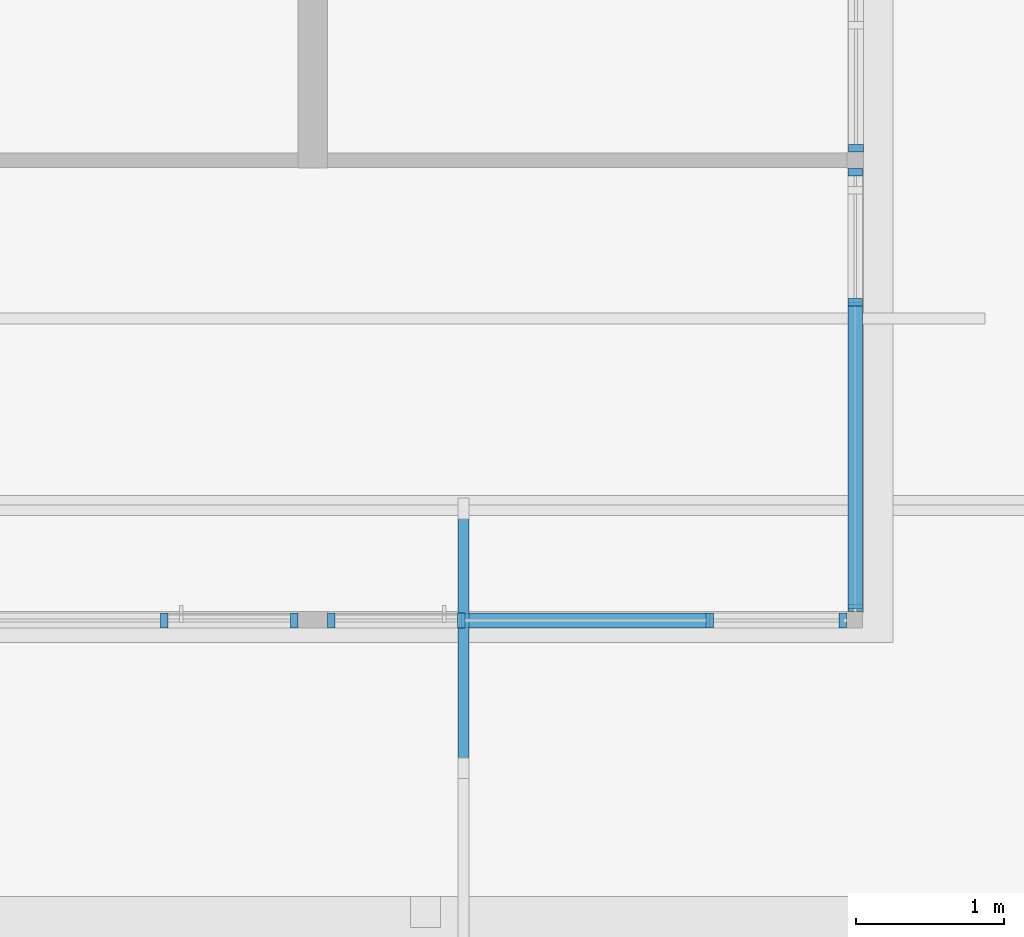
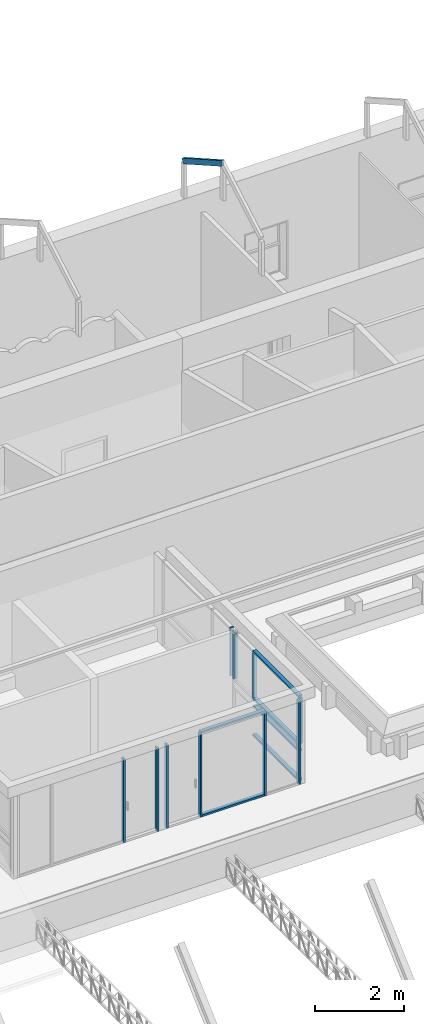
# One storey, part 5 of 153: 17 members, 1 beam, 5 elements without a shape of their own.
"""IFC4 building model written with IfcOpenShell, lengths in metres."""

from ifc_helpers import new_model, entity, si_unit, converted_unit, derived_unit, direction, frame, origin, place, context, subcontext, project, spatial, indexed_curve, outline, extrude, source, transform, mapped, material, type_object, type_shapes, element, aggregate, save


model = new_model("IFC4")

# Units and contexts
model_context = context("Model", 3, precision=1e-05, world=origin(), true_north=direction((6.123031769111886e-17, 1.0)))
body_context = subcontext(model_context, "Body", "Model", "MODEL_VIEW")
ifc_project = project(units=[si_unit("LENGTHUNIT", "METRE"), si_unit("AREAUNIT", "SQUARE_METRE"), si_unit("VOLUMEUNIT", "CUBIC_METRE"), converted_unit("PLANEANGLEUNIT", "DEGREE", entity("IfcRatioMeasure", 0.017453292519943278), si_unit("PLANEANGLEUNIT", "RADIAN"), dimensions=[0, 0, 0, 0, 0, 0, 0]), si_unit("MASSUNIT", "GRAM", prefix="KILO"), derived_unit("MASSDENSITYUNIT", [(si_unit("MASSUNIT", "GRAM", prefix="KILO"), 1), (si_unit("LENGTHUNIT", "METRE"), -3)]), derived_unit("MOMENTOFINERTIAUNIT", [(si_unit("LENGTHUNIT", "METRE"), 4)]), si_unit("TIMEUNIT", "SECOND"), si_unit("FREQUENCYUNIT", "HERTZ"), si_unit("THERMODYNAMICTEMPERATUREUNIT", "DEGREE_CELSIUS"), derived_unit("THERMALTRANSMITTANCEUNIT", [(si_unit("MASSUNIT", "GRAM", prefix="KILO"), 1), (si_unit("THERMODYNAMICTEMPERATUREUNIT", "KELVIN"), -1), (si_unit("TIMEUNIT", "SECOND"), -3)]), derived_unit("VOLUMETRICFLOWRATEUNIT", [(si_unit("LENGTHUNIT", "METRE"), 3), (si_unit("TIMEUNIT", "SECOND"), -1)]), derived_unit("MASSFLOWRATEUNIT", [(si_unit("MASSUNIT", "GRAM", prefix="KILO"), 1), (si_unit("TIMEUNIT", "SECOND"), -1)]), derived_unit("ROTATIONALFREQUENCYUNIT", [(si_unit("TIMEUNIT", "SECOND"), -1)]), si_unit("ELECTRICCURRENTUNIT", "AMPERE"), si_unit("ELECTRICVOLTAGEUNIT", "VOLT"), si_unit("POWERUNIT", "WATT"), si_unit("FORCEUNIT", "NEWTON", prefix="KILO"), si_unit("ILLUMINANCEUNIT", "LUX"), si_unit("LUMINOUSFLUXUNIT", "LUMEN"), si_unit("LUMINOUSINTENSITYUNIT", "CANDELA"), derived_unit("USERDEFINED", [(si_unit("MASSUNIT", "GRAM", prefix="KILO"), -1), (si_unit("LENGTHUNIT", "METRE"), -2), (si_unit("TIMEUNIT", "SECOND"), 3), (si_unit("LUMINOUSFLUXUNIT", "LUMEN"), 1)]), derived_unit("SOUNDPOWERUNIT", [(si_unit("MASSUNIT", "GRAM", prefix="KILO"), 1), (si_unit("LENGTHUNIT", "METRE"), 2), (si_unit("TIMEUNIT", "SECOND"), -3)]), derived_unit("SOUNDPRESSUREUNIT", [(si_unit("MASSUNIT", "GRAM", prefix="KILO"), 1), (si_unit("LENGTHUNIT", "METRE"), -1), (si_unit("TIMEUNIT", "SECOND"), -2)]), derived_unit("LINEARVELOCITYUNIT", [(si_unit("LENGTHUNIT", "METRE"), 1), (si_unit("TIMEUNIT", "SECOND"), -1)]), si_unit("PRESSUREUNIT", "PASCAL"), derived_unit("USERDEFINED", [(si_unit("LENGTHUNIT", "METRE"), -2), (si_unit("MASSUNIT", "GRAM", prefix="KILO"), 1), (si_unit("TIMEUNIT", "SECOND"), -2)]), derived_unit("LINEARFORCEUNIT", [(si_unit("MASSUNIT", "GRAM", prefix="KILO"), 1), (si_unit("LENGTHUNIT", "METRE"), 1), (si_unit("TIMEUNIT", "SECOND"), -2), (si_unit("LENGTHUNIT", "METRE"), -1)]), derived_unit("PLANARFORCEUNIT", [(si_unit("MASSUNIT", "GRAM", prefix="KILO"), 1), (si_unit("LENGTHUNIT", "METRE"), 1), (si_unit("TIMEUNIT", "SECOND"), -2), (si_unit("LENGTHUNIT", "METRE"), -2)])], contexts=[model_context])

# Site, building, storey
site_placement = place(None, origin())
site = spatial("IfcSite", under=ifc_project, at=site_placement, Name="Superficie", CompositionType="ELEMENT")
building_placement = place(site_placement, origin())
building = spatial("IfcBuilding", under=site, at=building_placement, CompositionType="ELEMENT")
storey_placement = place(building_placement, frame((0.0, 0.0, 3.5999999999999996)))
storey = spatial("IfcBuildingStorey", under=building, at=storey_placement, Name="Nivel 1", CompositionType="ELEMENT", Elevation=3.5999999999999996)

# Curtain wall, members
curtain_wall_type = type_object("IfcCurtainWallType", Name="Muro cortina:Muro cortina - simple", PredefinedType="NOTDEFINED")
curtain_wall_1_placement = place(storey_placement, frame((0.0, 0.0, -3.5999999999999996)))
curtain_wall_1 = element("IfcCurtainWall", 1, at=curtain_wall_1_placement, inside=storey, type_object=curtain_wall_type, Name="Muro cortina:Muro cortina - simple", ObjectType="Muro cortina:Muro cortina - simple", PredefinedType="NOTDEFINED")
ifc_material_1 = material(Name="<Unnamed>")
member_type_1 = type_object("IfcMemberType", Name="Montante rectangular:Montante rectangular - 5 x 10 cm", PredefinedType="MULLION", material=ifc_material_1)
shared_shape_1 = source(origin(), body_context, "Body", "SweptSolid", [
    extrude(outline(indexed_curve([(-0.05, -0.025), (0.05, -0.025), (0.05, 0.025), (-0.05, 0.025), (-0.05, -0.025)], self_intersect=False)), frame((0.0, 0.0, -1.2499999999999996), z_axis=(0.0, 0.0, 1.0), x_axis=(0.0, -1.0, 0.0)), (0.0, 0.0, 1.0), 1.2499999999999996),
])
type_shapes(member_type_1, [shared_shape_1])
member_1_placement = place(curtain_wall_1_placement, frame((-5.5182009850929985, 1.1813932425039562, 4.63), z_axis=(0.0, 0.0, -1.0), x_axis=(0.0, 1.0, 0.0)))
member_1 = element("IfcMember", 2, at=member_1_placement, type_object=member_type_1, material=ifc_material_1, Name="Montante rectangular:Montante rectangular - 5 x 10 cm", ObjectType="Montante rectangular:Montante rectangular - 5 x 10 cm", PredefinedType="MULLION", context=body_context, shape_type="MappedRepresentation", body=[
    mapped(shared_shape_1, transform((0.0, 0.0, 0.0), scale=1.0)),
])
member_type_2 = type_object("IfcMemberType", Name="Montante rectangular:Montante rectangular - 5 x 10 cm", PredefinedType="MULLION", material=ifc_material_1)
shared_shape_2 = source(origin(), body_context, "Body", "SweptSolid", [
    extrude(outline(indexed_curve([(-0.05, -0.025), (0.05, -0.025), (0.05, 0.025), (-0.05, 0.025), (-0.05, -0.025)], self_intersect=False)), frame((-0.025, 0.0, -1.2499999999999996), z_axis=(0.0, 0.0, 1.0), x_axis=(0.0, -1.0, 0.0)), (0.0, 0.0, 1.0), 1.2499999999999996),
])
type_shapes(member_type_2, [shared_shape_2])
member_2_placement = place(curtain_wall_1_placement, frame((-5.5182009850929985, -0.9047671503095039, 5.879999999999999), z_axis=(0.0, 0.0, 1.0), x_axis=(0.0, -1.0, 0.0)))
member_2 = element("IfcMember", 3, at=member_2_placement, type_object=member_type_2, material=ifc_material_1, Name="Montante rectangular:Montante rectangular - 5 x 10 cm", ObjectType="Montante rectangular:Montante rectangular - 5 x 10 cm", PredefinedType="MULLION", context=body_context, shape_type="MappedRepresentation", body=[
    mapped(shared_shape_2, transform((0.0, 0.0, 0.0), scale=1.0)),
])

curtain_wall_2_placement = place(storey_placement, frame((0.0, 0.0, -3.5999999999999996)))
curtain_wall_2 = element("IfcCurtainWall", 4, at=curtain_wall_2_placement, inside=storey, type_object=curtain_wall_type, Name="Muro cortina:Muro cortina - simple", ObjectType="Muro cortina:Muro cortina - simple", PredefinedType="NOTDEFINED")
member_type_3 = type_object("IfcMemberType", Name="Montante rectangular:Montante rectangular - 5 x 10 cm", PredefinedType="MULLION", material=ifc_material_1)
shared_shape_3 = source(origin(), body_context, "Body", "SweptSolid", [
    extrude(outline(indexed_curve([(-0.05, -0.025), (0.05, -0.025), (0.05, 0.025), (-0.05, 0.025), (-0.05, -0.025)], self_intersect=False)), frame((0.0, 0.0, -2.3000000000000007), z_axis=(0.0, 0.0, 1.0), x_axis=(0.0, -1.0, 0.0)), (0.0, 0.0, 1.0), 2.3000000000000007),
])
type_shapes(member_type_3, [shared_shape_3])
member_3_placement = place(curtain_wall_2_placement, frame((-6.498200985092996, -0.9636067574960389, 3.5999999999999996), z_axis=(0.0, 0.0, -1.0), x_axis=(-1.0, 0.0, 0.0)))
member_3 = element("IfcMember", 5, at=member_3_placement, type_object=member_type_3, material=ifc_material_1, Name="Montante rectangular:Montante rectangular - 5 x 10 cm", ObjectType="Montante rectangular:Montante rectangular - 5 x 10 cm", PredefinedType="MULLION", context=body_context, shape_type="MappedRepresentation", body=[
    mapped(shared_shape_3, transform((0.0, 0.0, 0.0), scale=1.0)),
])
member_4_placement = place(curtain_wall_2_placement, frame((-8.173200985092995, -0.9636067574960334, 3.5999999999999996), z_axis=(0.0, 0.0, -1.0), x_axis=(-1.0, 0.0, 0.0)))
member_4 = element("IfcMember", 6, at=member_4_placement, type_object=member_type_3, material=ifc_material_1, Name="Montante rectangular:Montante rectangular - 5 x 10 cm", ObjectType="Montante rectangular:Montante rectangular - 5 x 10 cm", PredefinedType="MULLION", context=body_context, shape_type="MappedRepresentation", body=[
    mapped(shared_shape_3, transform((0.0, 0.0, 0.0), scale=1.0)),
])
member_type_4 = type_object("IfcMemberType", Name="Montante rectangular:Montante rectangular - 5 x 10 cm", PredefinedType="MULLION", material=ifc_material_1)
shared_shape_4 = source(origin(), body_context, "Body", "SweptSolid", [
    extrude(outline(indexed_curve([(-0.05, -0.025), (0.05, -0.025), (0.05, 0.025), (-0.05, 0.025), (-0.05, -0.025)], self_intersect=False)), frame((-0.025, 0.0, -1.6750000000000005), z_axis=(0.0, 0.0, 1.0), x_axis=(0.0, -1.0, 0.0)), (0.0, 0.0, 1.0), 1.6750000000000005),
])
type_shapes(member_type_4, [shared_shape_4])
member_5_placement = place(curtain_wall_2_placement, frame((-8.173200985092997, -0.9636067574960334, 5.949999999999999), z_axis=(-1.0, 0.0, 0.0), x_axis=(0.0, 0.0, 1.0)))
member_5 = element("IfcMember", 7, at=member_5_placement, type_object=member_type_4, material=ifc_material_1, Name="Montante rectangular:Montante rectangular - 5 x 10 cm", ObjectType="Montante rectangular:Montante rectangular - 5 x 10 cm", PredefinedType="MULLION", context=body_context, shape_type="MappedRepresentation", body=[
    mapped(shared_shape_4, transform((0.0, 0.0, 0.0), scale=1.0)),
])
member_type_5 = type_object("IfcMemberType", Name="Montante rectangular:Montante rectangular - 5 x 10 cm", PredefinedType="MULLION", material=ifc_material_1)
shared_shape_5 = source(origin(), body_context, "Body", "SweptSolid", [
    extrude(outline(indexed_curve([(-0.05, -0.025), (0.05, -0.025), (0.05, 0.025), (-0.05, 0.025), (-0.05, -0.025)], self_intersect=False)), frame((-0.025, 0.0, -1.6249999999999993), z_axis=(0.0, 0.0, 1.0), x_axis=(0.0, -1.0, 0.0)), (0.0, 0.0, 1.0), 1.6249999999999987),
])
type_shapes(member_type_5, [shared_shape_5])
member_6_placement = place(curtain_wall_2_placement, frame((-6.523200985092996, -0.9636067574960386, 3.5999999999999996), z_axis=(1.0, 0.0, 0.0), x_axis=(0.0, 0.0, -1.0)))
member_6 = element("IfcMember", 8, at=member_6_placement, type_object=member_type_5, material=ifc_material_1, Name="Montante rectangular:Montante rectangular - 5 x 10 cm", ObjectType="Montante rectangular:Montante rectangular - 5 x 10 cm", PredefinedType="MULLION", context=body_context, shape_type="MappedRepresentation", body=[
    mapped(shared_shape_5, transform((0.0, 0.0, 0.0), scale=1.0)),
])
member_type_6 = type_object("IfcMemberType", Name="Montante rectangular:Montante rectangular - 5 x 10 cm", PredefinedType="MULLION", material=ifc_material_1)
shared_shape_6 = source(origin(), body_context, "Body", "SweptSolid", [
    extrude(outline(indexed_curve([(-0.05, -0.025), (0.05, -0.025), (0.05, 0.025), (-0.05, 0.025), (-0.05, -0.025)], self_intersect=False)), frame((-0.025, 0.0, -2.3000000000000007), z_axis=(0.0, 0.0, 1.0), x_axis=(0.0, -1.0, 0.0)), (0.0, 0.0, 1.0), 2.3000000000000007),
])
type_shapes(member_type_6, [shared_shape_6])
member_7_placement = place(curtain_wall_2_placement, frame((-9.073200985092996, -0.9636067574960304, 3.5999999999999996), z_axis=(0.0, 0.0, -1.0), x_axis=(-1.0, 0.0, 0.0)))
member_7 = element("IfcMember", 9, at=member_7_placement, type_object=member_type_6, material=ifc_material_1, Name="Montante rectangular:Montante rectangular - 5 x 10 cm", ObjectType="Montante rectangular:Montante rectangular - 5 x 10 cm", PredefinedType="MULLION", context=body_context, shape_type="MappedRepresentation", body=[
    mapped(shared_shape_6, transform((0.0, 0.0, 0.0), scale=1.0)),
])
member_type_7 = type_object("IfcMemberType", Name="Montante rectangular:Montante rectangular - 5 x 10 cm", PredefinedType="MULLION", material=ifc_material_1)
shared_shape_7 = source(origin(), body_context, "Body", "SweptSolid", [
    extrude(outline(indexed_curve([(-0.05, -0.025), (0.05, -0.025), (0.05, 0.025), (-0.05, 0.025), (-0.05, -0.025)], self_intersect=False)), frame((-0.025, 0.0, -2.3000000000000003), z_axis=(0.0, 0.0, 1.0), x_axis=(0.0, -1.0, 0.0)), (0.0, 0.0, 1.0), 2.3000000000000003),
])
type_shapes(member_type_7, [shared_shape_7])
member_8_placement = place(curtain_wall_2_placement, frame((-5.578200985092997, -0.9636067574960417, 5.9)))
member_8 = element("IfcMember", 10, at=member_8_placement, type_object=member_type_7, material=ifc_material_1, Name="Montante rectangular:Montante rectangular - 5 x 10 cm", ObjectType="Montante rectangular:Montante rectangular - 5 x 10 cm", PredefinedType="MULLION", context=body_context, shape_type="MappedRepresentation", body=[
    mapped(shared_shape_7, transform((0.0, 0.0, 0.0), scale=1.0)),
])
aggregate(curtain_wall_2, [member_3, member_5, member_6, member_7, member_8, member_4])

curtain_wall_3_placement = place(storey_placement, frame((0.0, 0.0, -3.5999999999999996)))
curtain_wall_3 = element("IfcCurtainWall", 11, at=curtain_wall_3_placement, inside=storey, type_object=curtain_wall_type, Name="Muro cortina:Muro cortina - simple", ObjectType="Muro cortina:Muro cortina - simple", PredefinedType="NOTDEFINED")
member_type_8 = type_object("IfcMemberType", Name="Montante rectangular:Montante rectangular - 5 x 10 cm", PredefinedType="MULLION", material=ifc_material_1)
shared_shape_8 = source(origin(), body_context, "Body", "SweptSolid", [
    extrude(outline(indexed_curve([(-0.05, -0.025), (0.05, -0.025), (0.05, 0.025), (-0.05, 0.025), (-0.05, -0.025)], self_intersect=False)), frame((-0.025, 0.0, -2.3000000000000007), z_axis=(0.0, 0.0, 1.0), x_axis=(0.0, -1.0, 0.0)), (0.0, 0.0, 1.0), 2.3000000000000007),
])
type_shapes(member_type_8, [shared_shape_8])
member_9_placement = place(curtain_wall_3_placement, frame((-9.273200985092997, -0.9636067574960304, 3.5999999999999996), z_axis=(0.0, 0.0, -1.0), x_axis=(1.0, 0.0, 0.0)))
member_9 = element("IfcMember", 12, at=member_9_placement, type_object=member_type_8, material=ifc_material_1, Name="Montante rectangular:Montante rectangular - 5 x 10 cm", ObjectType="Montante rectangular:Montante rectangular - 5 x 10 cm", PredefinedType="MULLION", context=body_context, shape_type="MappedRepresentation", body=[
    mapped(shared_shape_8, transform((0.0, 0.0, 0.0), scale=1.0)),
])
member_type_9 = type_object("IfcMemberType", Name="Montante rectangular:Montante rectangular - 5 x 10 cm", PredefinedType="MULLION", material=ifc_material_1)
shared_shape_9 = source(origin(), body_context, "Body", "SweptSolid", [
    extrude(outline(indexed_curve([(-0.05, -0.025), (0.05, -0.025), (0.05, 0.025), (-0.05, 0.025), (-0.05, -0.025)], self_intersect=False)), frame((0.0, 0.0, -2.3000000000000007), z_axis=(0.0, 0.0, 1.0), x_axis=(0.0, -1.0, 0.0)), (0.0, 0.0, 1.0), 2.3000000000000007),
])
type_shapes(member_type_9, [shared_shape_9])
member_10_placement = place(curtain_wall_3_placement, frame((-10.173200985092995, -0.9636067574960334, 3.5999999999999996), z_axis=(0.0, 0.0, -1.0), x_axis=(1.0, 0.0, 0.0)))
member_10 = element("IfcMember", 13, at=member_10_placement, type_object=member_type_9, material=ifc_material_1, Name="Montante rectangular:Montante rectangular - 5 x 10 cm", ObjectType="Montante rectangular:Montante rectangular - 5 x 10 cm", PredefinedType="MULLION", context=body_context, shape_type="MappedRepresentation", body=[
    mapped(shared_shape_9, transform((0.0, 0.0, 0.0), scale=1.0)),
])
aggregate(curtain_wall_3, [member_9, member_10])

# Member
member_type_10 = type_object("IfcMemberType", Name="Montante rectangular:Montante rectangular - 5 x 10 cm", PredefinedType="MULLION", material=ifc_material_1)
shared_shape_10 = source(origin(), body_context, "Body", "SweptSolid", [
    extrude(outline(indexed_curve([(-0.05, -0.025), (0.05, -0.025), (0.05, 0.025), (-0.05, 0.025), (-0.05, -0.025)], self_intersect=False)), frame((0.0, 0.0, -2.04116039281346), z_axis=(0.0, 0.0, 1.0), x_axis=(0.0, -1.0, 0.0)), (0.0, 0.0, 1.0), 2.04116039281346),
])
type_shapes(member_type_10, [shared_shape_10])
member_11_placement = place(curtain_wall_1_placement, frame((-5.5182009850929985, 1.1563932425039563, 4.63), z_axis=(0.0, 1.0, 0.0), x_axis=(0.0, 0.0, 1.0)))
member_11 = element("IfcMember", 14, at=member_11_placement, type_object=member_type_10, material=ifc_material_1, Name="Montante rectangular:Montante rectangular - 5 x 10 cm", ObjectType="Montante rectangular:Montante rectangular - 5 x 10 cm", PredefinedType="MULLION", context=body_context, shape_type="MappedRepresentation", body=[
    mapped(shared_shape_10, transform((0.0, 0.0, 0.0), scale=1.0)),
])

member_12_placement = place(curtain_wall_1_placement, frame((-5.5182009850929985, 1.1563932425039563, 4.43), z_axis=(0.0, 1.0, 0.0), x_axis=(0.0, 0.0, 1.0)))
member_12 = element("IfcMember", 15, at=member_12_placement, type_object=member_type_10, material=ifc_material_1, Name="Montante rectangular:Montante rectangular - 5 x 10 cm", ObjectType="Montante rectangular:Montante rectangular - 5 x 10 cm", PredefinedType="MULLION", context=body_context, shape_type="MappedRepresentation", body=[
    mapped(shared_shape_10, transform((0.0, 0.0, 0.0), scale=1.0)),
])

member_13_placement = place(curtain_wall_1_placement, frame((-5.5182009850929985, 1.1563932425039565, 3.619999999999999), z_axis=(0.0, 1.0, 0.0), x_axis=(0.0, 0.0, 1.0)))
member_13 = element("IfcMember", 16, at=member_13_placement, type_object=member_type_10, material=ifc_material_1, Name="Montante rectangular:Montante rectangular - 5 x 10 cm", ObjectType="Montante rectangular:Montante rectangular - 5 x 10 cm", PredefinedType="MULLION", context=body_context, shape_type="MappedRepresentation", body=[
    mapped(shared_shape_10, transform((0.0, 0.0, 0.0), scale=1.0)),
])

member_type_11 = type_object("IfcMemberType", Name="Montante rectangular:Montante rectangular - 5 x 10 cm", PredefinedType="MULLION", material=ifc_material_1)
shared_shape_11 = source(origin(), body_context, "Body", "SweptSolid", [
    extrude(outline(indexed_curve([(-0.05, -0.025), (0.05, -0.025), (0.05, 0.025), (-0.05, 0.025), (-0.05, -0.025)], self_intersect=False)), frame((-0.025, 0.0, -2.066160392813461), z_axis=(0.0, 0.0, 1.0), x_axis=(0.0, -1.0, 0.0)), (0.0, 0.0, 1.0), 2.066160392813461),
])
type_shapes(member_type_11, [shared_shape_11])
member_14_placement = place(curtain_wall_1_placement, frame((-5.5182009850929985, 1.1813932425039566, 5.949999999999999), z_axis=(0.0, 1.0, 0.0), x_axis=(0.0, 0.0, 1.0)))
member_14 = element("IfcMember", 17, at=member_14_placement, type_object=member_type_11, material=ifc_material_1, Name="Montante rectangular:Montante rectangular - 5 x 10 cm", ObjectType="Montante rectangular:Montante rectangular - 5 x 10 cm", PredefinedType="MULLION", context=body_context, shape_type="MappedRepresentation", body=[
    mapped(shared_shape_11, transform((0.0, 0.0, 0.0), scale=1.0)),
])

member_type_12 = type_object("IfcMemberType", Name="Montante rectangular:Montante rectangular - 5 x 10 cm", PredefinedType="MULLION", material=ifc_material_1)
shared_shape_12 = source(origin(), body_context, "Body", "SweptSolid", [
    extrude(outline(indexed_curve([(-0.05, -0.025), (0.05, -0.025), (0.05, 0.025), (-0.05, 0.025), (-0.05, -0.025)], self_intersect=False)), frame((-0.025, 0.0, -2.0661603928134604), z_axis=(0.0, 0.0, 1.0), x_axis=(0.0, -1.0, 0.0)), (0.0, 0.0, 1.0), 2.0661603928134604),
])
type_shapes(member_type_12, [shared_shape_12])
member_15_placement = place(curtain_wall_1_placement, frame((-5.5182009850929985, -0.8847671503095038, 3.5999999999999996), z_axis=(0.0, -1.0, 0.0), x_axis=(0.0, 0.0, -1.0)))
member_15 = element("IfcMember", 18, at=member_15_placement, type_object=member_type_12, material=ifc_material_1, Name="Montante rectangular:Montante rectangular - 5 x 10 cm", ObjectType="Montante rectangular:Montante rectangular - 5 x 10 cm", PredefinedType="MULLION", context=body_context, shape_type="MappedRepresentation", body=[
    mapped(shared_shape_12, transform((0.0, 0.0, 0.0), scale=1.0)),
])

member_type_13 = type_object("IfcMemberType", Name="Montante rectangular:Montante rectangular - 5 x 10 cm", PredefinedType="MULLION", material=ifc_material_1)
shared_shape_13 = source(origin(), body_context, "Body", "SweptSolid", [
    extrude(outline(indexed_curve([(-0.05, -0.025), (0.05, -0.025), (0.05, 0.025), (-0.05, 0.025), (-0.05, -0.025)], self_intersect=False)), frame((-0.025, 0.0, -1.2499999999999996), z_axis=(0.0, 0.0, 1.0), x_axis=(0.0, -1.0, 0.0)), (0.0, 0.0, 1.0), 1.2499999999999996),
])
type_shapes(member_type_13, [shared_shape_13])
member_16_placement = place(curtain_wall_1_placement, frame((-5.5182009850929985, 2.0813932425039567, 4.63), z_axis=(0.0, 0.0, -1.0), x_axis=(0.0, 1.0, 0.0)))
member_16 = element("IfcMember", 19, at=member_16_placement, type_object=member_type_13, material=ifc_material_1, Name="Montante rectangular:Montante rectangular - 5 x 10 cm", ObjectType="Montante rectangular:Montante rectangular - 5 x 10 cm", PredefinedType="MULLION", context=body_context, shape_type="MappedRepresentation", body=[
    mapped(shared_shape_13, transform((0.0, 0.0, 0.0), scale=1.0)),
])

aggregate(curtain_wall_1, [member_11, member_12, member_13, member_2, member_14, member_1, member_15, member_16])

# Curtain wall, member
curtain_wall_4_placement = place(storey_placement, frame((0.0, 0.0, -3.5999999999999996)))
curtain_wall_4 = element("IfcCurtainWall", 20, at=curtain_wall_4_placement, inside=storey, type_object=curtain_wall_type, Name="Muro cortina:Muro cortina - simple", ObjectType="Muro cortina:Muro cortina - simple", PredefinedType="NOTDEFINED")
member_type_14 = type_object("IfcMemberType", Name="Montante rectangular:Montante rectangular - 5 x 10 cm", PredefinedType="MULLION", material=ifc_material_1)
shared_shape_14 = source(origin(), body_context, "Body", "SweptSolid", [
    extrude(outline(indexed_curve([(-0.05, -0.025), (0.05, -0.025), (0.05, 0.025), (-0.05, 0.025), (-0.05, -0.025)], self_intersect=False)), frame((-0.025, 0.0, -1.3199999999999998), z_axis=(0.0, 0.0, 1.0), x_axis=(0.0, -1.0, 0.0)), (0.0, 0.0, 1.0), 1.3199999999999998),
])
type_shapes(member_type_14, [shared_shape_14])
member_17_placement = place(curtain_wall_4_placement, frame((-5.5132009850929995, 2.1913932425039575, 5.949999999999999), z_axis=(0.0, 0.0, 1.0), x_axis=(0.0, -1.0, 0.0)))
member_17 = element("IfcMember", 21, at=member_17_placement, type_object=member_type_14, material=ifc_material_1, Name="Montante rectangular:Montante rectangular - 5 x 10 cm", ObjectType="Montante rectangular:Montante rectangular - 5 x 10 cm", PredefinedType="MULLION", context=body_context, shape_type="MappedRepresentation", body=[
    mapped(shared_shape_14, transform((0.0, 0.0, 0.0), scale=1.0)),
])
aggregate(curtain_wall_4, [member_17])

# Assembly, beam
assembly_placement = place(storey_placement, origin())
assembly = element("IfcElementAssembly", 22, at=assembly_placement, inside=storey, Name="Cercha superior:Cercha superior", ObjectType="Cercha superior:Cercha superior", AssemblyPlace="NOTDEFINED", PredefinedType="TRUSS")
ifc_material_2 = material(Name="Madera - Madera de construcción", Category="Madera")
beam_type = type_object("IfcBeamType", Name="Glulam-Pino del sur:76X140", PredefinedType="BEAM", material=ifc_material_2)
shared_shape_15 = source(origin(), body_context, "Body", "SweptSolid", [
    extrude(outline(indexed_curve([(-0.9661116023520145, -0.07000000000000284), (1.0061114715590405, -0.0700000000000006), (1.0061114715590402, 0.06999999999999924), (-1.0461113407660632, 0.06999999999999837), (-0.9661116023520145, -0.07000000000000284)], self_intersect=False)), frame((-8.196073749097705, -1.0837862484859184, 12.134452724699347), z_axis=(1.0, 0.0, 0.0), x_axis=(0.0, 0.8695829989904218, -0.49378680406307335)), (0.0, 0.0, 1.0), 0.0760000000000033),
])
type_shapes(beam_type, [shared_shape_15])
beam_placement = place(building_placement, frame((0.0, 0.0, 9.562421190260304)))
beam = element("IfcBeam", 23, at=beam_placement, type_object=beam_type, material=ifc_material_2, Name="Glulam-Pino del sur:76X140", ObjectType="Glulam-Pino del sur:76X140", PredefinedType="BEAM", context=body_context, shape_type="MappedRepresentation", body=[
    mapped(shared_shape_15, transform((0.0, 0.0, 0.0), scale=1.0)),
])
aggregate(assembly, [beam])

save(model, "model.ifc")
